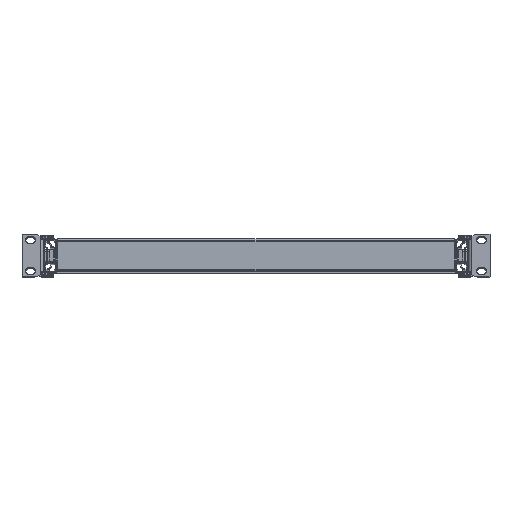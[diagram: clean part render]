
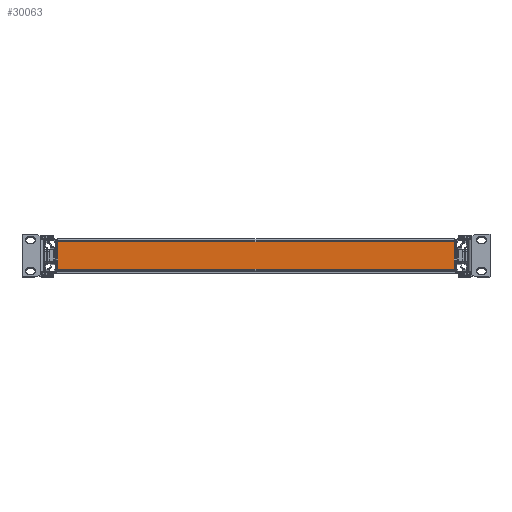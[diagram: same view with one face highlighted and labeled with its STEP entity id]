
A CAD part, top view. The second image highlights one B-rep face of the part: STEP entity #30063.
In plain terms, the highlighted planar face has unit normal (0, 0, 1).
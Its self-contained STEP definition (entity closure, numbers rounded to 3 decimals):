
#600 = CARTESIAN_POINT ( 'NONE',  ( -204.3, -1.5, 325. ) ) ;
#3493 = DIRECTION ( 'NONE',  ( 1., 0., 0. ) ) ;
#7425 = EDGE_CURVE ( 'NONE', #60512, #38992, #58477, .T. ) ;
#10535 = EDGE_CURVE ( 'NONE', #26676, #57953, #45556, .T. ) ;
#11492 = CARTESIAN_POINT ( 'NONE',  ( 204.3, -29.7, 325. ) ) ;
#13119 = VECTOR ( 'NONE', #20698, 1000. ) ;
#15198 = EDGE_LOOP ( 'NONE', ( #44217, #23620, #33832, #63265 ) ) ;
#18345 = CARTESIAN_POINT ( 'NONE',  ( -204.3, -29.7, 325. ) ) ;
#19305 = VECTOR ( 'NONE', #25744, 1000. ) ;
#19703 = CARTESIAN_POINT ( 'NONE',  ( 204.3, -1.5, 325. ) ) ;
#20698 = DIRECTION ( 'NONE',  ( -1., 0., 0. ) ) ;
#22174 = DIRECTION ( 'NONE',  ( 0., 0., 1. ) ) ;
#23620 = ORIENTED_EDGE ( 'NONE', *, *, #7425, .T. ) ;
#25401 = CARTESIAN_POINT ( 'NONE',  ( -207.2, -1.5, 325. ) ) ;
#25744 = DIRECTION ( 'NONE',  ( 0., -1., 0. ) ) ;
#26470 = PLANE ( 'NONE',  #52754 ) ;
#26676 = VERTEX_POINT ( 'NONE', #19703 ) ;
#27861 = CARTESIAN_POINT ( 'NONE',  ( -204.3, -1.5, 325. ) ) ;
#30013 = LINE ( 'NONE', #43057, #46260 ) ;
#30063 = ADVANCED_FACE ( 'NONE', ( #59932 ), #26470, .T. ) ;
#31890 = DIRECTION ( 'NONE',  ( 0., -1., 0. ) ) ;
#33832 = ORIENTED_EDGE ( 'NONE', *, *, #45496, .T. ) ;
#38992 = VERTEX_POINT ( 'NONE', #11492 ) ;
#40106 = LINE ( 'NONE', #600, #19305 ) ;
#43057 = CARTESIAN_POINT ( 'NONE',  ( 204.3, -32.6, 325. ) ) ;
#44217 = ORIENTED_EDGE ( 'NONE', *, *, #50250, .T. ) ;
#45496 = EDGE_CURVE ( 'NONE', #38992, #26676, #30013, .T. ) ;
#45556 = LINE ( 'NONE', #25401, #13119 ) ;
#46260 = VECTOR ( 'NONE', #62269, 1000. ) ;
#47525 = CARTESIAN_POINT ( 'NONE',  ( -204.3, -29.7, 325. ) ) ;
#50250 = EDGE_CURVE ( 'NONE', #57953, #60512, #40106, .T. ) ;
#51126 = CARTESIAN_POINT ( 'NONE',  ( -207.2, 0., 325. ) ) ;
#52754 = AXIS2_PLACEMENT_3D ( 'NONE', #51126, #22174, #31890 ) ;
#55382 = VECTOR ( 'NONE', #3493, 1000. ) ;
#57953 = VERTEX_POINT ( 'NONE', #27861 ) ;
#58477 = LINE ( 'NONE', #47525, #55382 ) ;
#59932 = FACE_OUTER_BOUND ( 'NONE', #15198, .T. ) ;
#60512 = VERTEX_POINT ( 'NONE', #18345 ) ;
#62269 = DIRECTION ( 'NONE',  ( 0., 1., 0. ) ) ;
#63265 = ORIENTED_EDGE ( 'NONE', *, *, #10535, .T. ) ;
